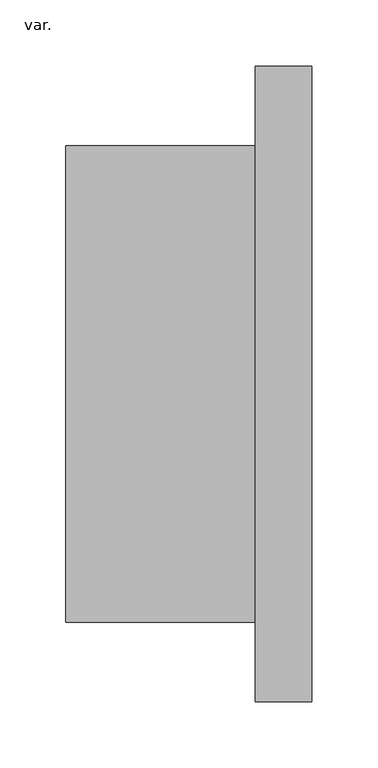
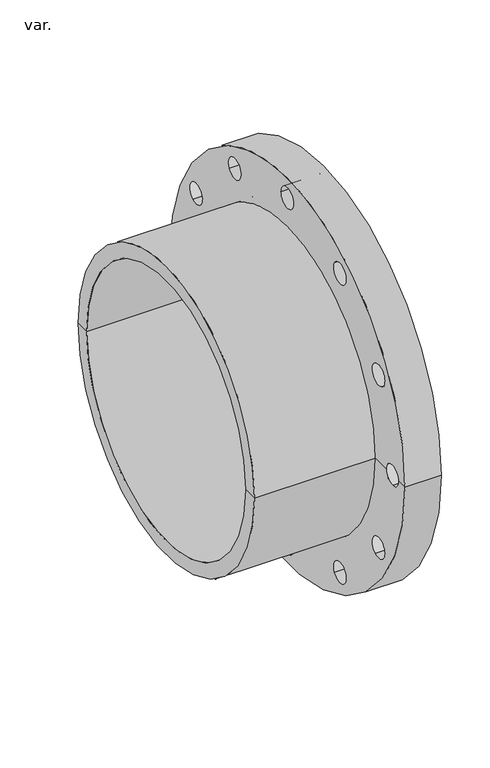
"""IFC4 building model written with IfcOpenShell, lengths in millimetres: pipe fitting geometry, PavcoWavin_UnionesDeTuberia_BIAX y Unión Platino_BridaAjustabledePVCSCH80 : var.."""

import ifcopenshell
import ifcopenshell.guid

model = None  # the IFC model being written
_history = None  # IfcOwnerHistory: only IFC2X3 demands one
_inside = {}  # id of a spatial element -> (the spatial element, [elements in it])
_under = {}  # id of a project, library or spatial element -> (it, [spatial elements below it])
_declared = {}  # id of a project -> (the project, [libraries it declares])
_typed = {}  # id of a type object -> (the type object, [elements of that type])
_made_of = {}  # id of a material, layer set ... -> (it, [elements and type objects made of it])


def new_model(schema):
    """Start an empty IFC model of exactly this schema.

    Asked for "IFC4X3", IfcOpenShell would pick the latest addendum, in which some entities
    have other attributes; the version numbers below select the first issue.
    IFC2X3 requires an IfcOwnerHistory on every rooted entity: one is made here for all.
    """
    global model, _history
    if schema == "IFC4X3":
        model = ifcopenshell.file(schema_version=(4, 3, 0, 0))
    else:
        model = ifcopenshell.file(schema=schema)
    _inside.clear()
    _under.clear()
    _declared.clear()
    _typed.clear()
    _made_of.clear()
    _history = None
    if model.schema == "IFC2X3":
        org = make("IfcOrganization", Name="unknown")
        user = make(
            "IfcPersonAndOrganization",
            ThePerson=make("IfcPerson", FamilyName="unknown"),
            TheOrganization=org,
        )
        app = make(
            "IfcApplication",
            ApplicationDeveloper=org,
            Version="unknown",
            ApplicationFullName="unknown",
            ApplicationIdentifier="unknown",
        )
        _history = make(
            "IfcOwnerHistory",
            OwningUser=user,
            OwningApplication=app,
            ChangeAction="ADDED",
            CreationDate=0,
        )
    return model


def make(cls, **values):
    """One entity of the class cls with the attributes given. An attribute that is None is left unset."""
    return model.create_entity(
        cls, **{name: value for name, value in values.items() if value is not None}
    )


def rooted(cls, **values):
    """An entity with a GlobalId (a new one), such as an element, a storey or a relation."""
    return make(cls, GlobalId=ifcopenshell.guid.new(), OwnerHistory=_history, **values)


def si_unit(unit_type, name, prefix=None):
    """IfcSIUnit, for example si_unit("LENGTHUNIT", "METRE", prefix="MILLI")."""
    return make("IfcSIUnit", UnitType=unit_type, Prefix=prefix, Name=name)


def assignment(units):
    """IfcUnitAssignment: the units of a project."""
    return None if units is None else make("IfcUnitAssignment", Units=units)


def point(xyz):
    """IfcCartesianPoint."""
    return None if xyz is None else make("IfcCartesianPoint", Coordinates=xyz)


def direction(xyz):
    """IfcDirection."""
    return None if xyz is None else make("IfcDirection", DirectionRatios=xyz)


def frame(location, z_axis=None, x_axis=None):
    """IfcAxis2Placement3D, a coordinate frame: its origin and axes. An axis left out is left unset."""
    return make(
        "IfcAxis2Placement3D",
        Location=point(location),
        Axis=direction(z_axis),
        RefDirection=direction(x_axis),
    )


def origin():
    """The frame at (0, 0, 0) with its axes left unset."""
    return frame((0.0, 0.0, 0.0))


def place(relative_to, where):
    """IfcLocalPlacement: puts the frame where relative to a parent placement (None: the world)."""
    return make(
        "IfcLocalPlacement", PlacementRelTo=relative_to, RelativePlacement=where
    )


def context(
    kind, dimensions, precision=None, world=None, true_north=None, identifier=None
):
    """IfcGeometricRepresentationContext, for example the 3D "Model" context."""
    return make(
        "IfcGeometricRepresentationContext",
        ContextIdentifier=identifier,
        ContextType=kind,
        CoordinateSpaceDimension=dimensions,
        Precision=precision,
        WorldCoordinateSystem=world,
        TrueNorth=true_north,
    )


def project(units=None, contexts=None):
    """IfcProject with its units and contexts."""
    return rooted(
        "IfcProject",
        Name="project",
        RepresentationContexts=contexts,
        UnitsInContext=assignment(units),
    )


def spatial(cls, under=None, at=None, **own):
    """A site, building, storey or space (cls), placed at a placement, below another one or the project."""
    s = rooted(cls, ObjectPlacement=at, **own)
    if under is not None:
        _under.setdefault(under.id(), (under, []))[1].append(s)
    return s


def polyline(points):
    """IfcPolyline through the points."""
    return make("IfcPolyline", Points=[point(p) for p in points])


def circle_curve(where, radius):
    """IfcCircle in the frame where."""
    return make("IfcCircle", Position=where, Radius=radius)


def shape(context_of_items, identifier, shape_type, items):
    """IfcShapeRepresentation: the items that make up one representation, for example the "Body"."""
    return make(
        "IfcShapeRepresentation",
        ContextOfItems=context_of_items,
        RepresentationIdentifier=identifier,
        RepresentationType=shape_type,
        Items=items,
    )


def source(mapping_origin, context_of_items, identifier, shape_type, items):
    """IfcRepresentationMap: a shape defined once, which mapped items show again and again."""
    return make(
        "IfcRepresentationMap",
        MappingOrigin=mapping_origin,
        MappedRepresentation=shape(context_of_items, identifier, shape_type, items),
    )


def transform(
    local_origin,
    x_axis=None,
    y_axis=None,
    z_axis=None,
    scale=None,
    scale2=None,
    scale3=None,
    uniform=True,
):
    """IfcCartesianTransformationOperator3D, or its non-uniform kind. x_axis, y_axis, z_axis: its Axis1, 2, 3."""
    if uniform:
        return make(
            "IfcCartesianTransformationOperator3D",
            Axis1=direction(x_axis),
            Axis2=direction(y_axis),
            LocalOrigin=point(local_origin),
            Scale=scale,
            Axis3=direction(z_axis),
        )
    return make(
        "IfcCartesianTransformationOperator3DnonUniform",
        Axis1=direction(x_axis),
        Axis2=direction(y_axis),
        LocalOrigin=point(local_origin),
        Scale=scale,
        Axis3=direction(z_axis),
        Scale2=scale2,
        Scale3=scale3,
    )


def mapped(mapping_source, mapping_target):
    """IfcMappedItem: shows the shape of a source again, moved by a transform."""
    return make(
        "IfcMappedItem", MappingSource=mapping_source, MappingTarget=mapping_target
    )


def made_of(thing, what):
    """Note that an element or type object is made of a material, layer set ...; save() writes the relation."""
    if what is not None:
        _made_of.setdefault(what.id(), (what, []))[1].append(thing)
    return thing


def element(
    cls,
    number,
    at=None,
    inside=None,
    cuts=None,
    type_object=None,
    material=None,
    context=None,
    identifier="Body",
    shape_type=None,
    held_by="IfcProductDefinitionShape",
    body=None,
    shapes=None,
    **own,
):
    """One element of the class cls, such as IfcWall. Its Tag is "e" and its number.

    at: its placement. inside: the storey or other place that contains it. cuts: it is an
    opening in that element (IfcRelVoidsElement). A single representation is given by context,
    identifier, shape_type and body (its items); several are given by shapes. held_by: the class
    of the entity that holds the representations. save() writes the other relations.
    """
    e = rooted(cls, Tag="e%d" % number, ObjectPlacement=at, **own)
    if body is not None:
        shapes = [shape(context, identifier, shape_type, body)]
    if shapes is not None:
        e.Representation = make(held_by, Representations=shapes)
    if inside is not None:
        _inside.setdefault(inside.id(), (inside, []))[1].append(e)
    if cuts is not None:
        rooted(
            "IfcRelVoidsElement", RelatingBuildingElement=cuts, RelatedOpeningElement=e
        )
    if type_object is not None:
        _typed.setdefault(type_object.id(), (type_object, []))[1].append(e)
    return made_of(e, material)


def aggregate(whole, parts):
    """IfcRelAggregates: a whole, such as a stair, and the parts it consists of."""
    return rooted("IfcRelAggregates", RelatingObject=whole, RelatedObjects=parts)


def save(model, path):
    """Write the relations noted so far, then the file.

    IfcRelAggregates (storeys below a building ...), IfcRelContainedInSpatialStructure (elements
    in a storey), IfcRelDefinesByType, IfcRelAssociatesMaterial and IfcRelDeclares: one each for
    every whole, place, type object, material and project.
    """
    for whole, parts in _under.values():
        aggregate(whole, parts)
    for where, things in _inside.values():
        rooted(
            "IfcRelContainedInSpatialStructure",
            RelatedElements=things,
            RelatingStructure=where,
        )
    for kind, things in _typed.values():
        rooted("IfcRelDefinesByType", RelatedObjects=things, RelatingType=kind)
    for what, things in _made_of.values():
        rooted("IfcRelAssociatesMaterial", RelatedObjects=things, RelatingMaterial=what)
    for by, libraries in _declared.values():
        rooted("IfcRelDeclares", RelatingContext=by, RelatedDefinitions=libraries)
    model.write(path)


def plane_surface(at):
    """IfcPlane: the flat surface through the origin of the frame at, square to its z axis."""
    return make("IfcPlane", Position=at)


def cylinder_surface(at, radius):
    """IfcCylindricalSurface: all points at the distance radius from the z axis of the frame at."""
    return make("IfcCylindricalSurface", Position=at, Radius=radius)


def revolved_surface(curve, axis_point, axis_direction):
    """IfcSurfaceOfRevolution: the curve turned about the line through axis_point along axis_direction."""
    return make(
        "IfcSurfaceOfRevolution",
        SweptCurve=make("IfcArbitraryOpenProfileDef", ProfileType="CURVE", Curve=curve),
        AxisPosition=make("IfcAxis1Placement", Location=point(axis_point), Axis=direction(axis_direction)),
    )


def advanced_brep(points, edges, surfaces, faces):
    """IfcAdvancedBrep: a solid bounded by faces that lie on surfaces and meet in shared edges.

    An edge is (start, end): straight between two places in points (the first is 0);
    or (start, end, curve); or (start, end, curve, False) where it runs against its curve.
    A face is (place in surfaces, loops), or (place, loops, False) where it looks against
    its surface's normal. A loop lists edges by number (the first is 1), with a minus sign
    where the edge is run from its end to its start. The first loop is the outer one.
    """
    corners = [point(p) for p in points]
    vertices = [make("IfcVertexPoint", VertexGeometry=c) for c in corners]
    made = []
    for start, end, *more in edges:
        made.append(
            make(
                "IfcEdgeCurve",
                EdgeStart=vertices[start],
                EdgeEnd=vertices[end],
                EdgeGeometry=more[0] if more else make("IfcPolyline", Points=[corners[start], corners[end]]),
                SameSense=more[1] if len(more) > 1 else True,
            )
        )
    hull = []
    for where, loops, *sense in faces:
        bounds = []
        for j, loop in enumerate(loops):
            ring = [make("IfcOrientedEdge", EdgeElement=made[abs(k) - 1], Orientation=k > 0) for k in loop]
            bounds.append(
                make(
                    "IfcFaceOuterBound" if j == 0 else "IfcFaceBound",
                    Bound=make("IfcEdgeLoop", EdgeList=ring),
                    Orientation=True,
                )
            )
        hull.append(make("IfcAdvancedFace", Bounds=bounds, FaceSurface=surfaces[where], SameSense=sense[0] if sense else True))
    return make("IfcAdvancedBrep", Outer=make("IfcClosedShell", CfsFaces=hull))


def var_bb98a727(model_context):
    return source(origin(), model_context, "Body", "AdvancedBrep", [
        advanced_brep(
        [(-21.5, -241.0, 0.0), (-21.5, 241.0, 0.0), (21.5, 241.0, 0.0), (21.5, -241.0, 0.0), (-21.5, -228.6, 0.0), (-21.5, -215.9, -12.7), (-21.5, -203.2, 0.0), (-21.5, -180.5, 0.0), (-21.5, 180.5, 0.0), (-21.5, 203.2, 0.0), (-21.5, 215.9, -12.7), (-21.5, 228.6, 0.0), (-21.5, 193.3248847, -96.9514774), (-21.5, 180.6248847, -118.9485226), (-21.5, 118.9485226, -180.6248847), (-21.5, 96.9514774, -193.3248847), (-21.5, 12.7, -215.9), (-21.5, -12.7, -215.9), (-21.5, -96.9514774, -193.3248847), (-21.5, -118.9485226, -180.6248847), (-21.5, -180.6248847, -118.9485226), (-21.5, -193.3248847, -96.9514774), (-21.5, 215.9, 12.7), (-21.5, -215.9, 12.7), (-21.5, 180.6248847, 118.9485226), (-21.5, 193.3248847, 96.9514774), (-21.5, -12.7, 215.9), (-21.5, 12.7, 215.9), (-21.5, -118.9485226, 180.6248847), (-21.5, -96.9514774, 193.3248847), (-21.5, 96.9514774, 193.3248847), (-21.5, 118.9485226, 180.6248847), (-21.5, -193.3248847, 96.9514774), (-21.5, -180.6248847, 118.9485226), (-3.5, -180.5, 0.0), (-3.5, 180.5, 0.0), (-3.5, -192.5, 0.0), (-3.5, 192.5, 0.0), (21.5, -192.5, 0.0), (21.5, 192.5, 0.0), (21.5, 228.6, 0.0), (21.5, 215.9, -12.7), (21.5, 203.2, 0.0), (21.5, -203.2, 0.0), (21.5, -215.9, -12.7), (21.5, -228.6, 0.0), (21.5, 180.6248847, -118.9485226), (21.5, 193.3248847, -96.9514774), (21.5, 96.9514774, -193.3248847), (21.5, 118.9485226, -180.6248847), (21.5, -12.7, -215.9), (21.5, 12.7, -215.9), (21.5, -118.9485226, -180.6248847), (21.5, -96.9514774, -193.3248847), (21.5, -193.3248847, -96.9514774), (21.5, -180.6248847, -118.9485226), (21.5, -215.9, 12.7), (21.5, 215.9, 12.7), (21.5, 193.3248847, 96.9514774), (21.5, 180.6248847, 118.9485226), (21.5, 12.7, 215.9), (21.5, -12.7, 215.9), (21.5, -96.9514774, 193.3248847), (21.5, -118.9485226, 180.6248847), (21.5, 118.9485226, 180.6248847), (21.5, 96.9514774, 193.3248847), (21.5, -180.6248847, 118.9485226), (21.5, -193.3248847, 96.9514774)],
        [
            (0, 1, circle_curve(frame((-21.5, 0.0, 0.0), z_axis=(1.0, 0.0, 0.0), x_axis=(0.0, 1.0, 0.0)), 241.0)),
            (1, 2),
            (2, 3, circle_curve(frame((21.5, 0.0, 0.0), z_axis=(-1.0, 0.0, 0.0), x_axis=(0.0, 1.0, 0.0)), 241.0)),
            (3, 0),
            (1, 0, circle_curve(frame((-21.5, 0.0, 0.0), z_axis=(1.0, 0.0, 0.0), x_axis=(0.0, 1.0, 0.0)), 241.0)),
            (3, 2, circle_curve(frame((21.5, 0.0, 0.0), z_axis=(-1.0, 0.0, 0.0), x_axis=(0.0, 1.0, 0.0)), 241.0)),
            (0, 4),
            (4, 5, circle_curve(frame((-21.5, -215.9, 0.0), z_axis=(1.0, 0.0, 0.0), x_axis=(0.0, 0.0, 1.0)), 12.7)),
            (5, 6, circle_curve(frame((-21.5, -215.9, 0.0), z_axis=(1.0, 0.0, 0.0), x_axis=(0.0, 0.0, 1.0)), 12.7)),
            (6, 7),
            (7, 8, circle_curve(frame((-21.5, 0.0, 0.0), z_axis=(1.0, 0.0, 0.0), x_axis=(0.0, 1.0, 0.0)), 180.5)),
            (8, 9),
            (9, 10, circle_curve(frame((-21.5, 215.9, 0.0), z_axis=(1.0, 0.0, 0.0), x_axis=(0.0, 0.0, -1.0)), 12.7)),
            (10, 11, circle_curve(frame((-21.5, 215.9, 0.0), z_axis=(1.0, 0.0, 0.0), x_axis=(0.0, 0.0, -1.0)), 12.7)),
            (11, 1),
            (12, 13, circle_curve(frame((-21.5, 186.9748847, -107.95), z_axis=(1.0, 0.0, 0.0), x_axis=(0.0, -0.5000000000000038, -0.8660254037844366)), 12.7)),
            (13, 12, circle_curve(frame((-21.5, 186.9748847, -107.95), z_axis=(1.0, 0.0, 0.0), x_axis=(0.0, -0.5000000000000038, -0.8660254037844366)), 12.7)),
            (14, 15, circle_curve(frame((-21.5, 107.95, -186.9748847), z_axis=(1.0, 0.0, 0.0), x_axis=(0.0, -0.8660254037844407, -0.4999999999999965)), 12.7)),
            (15, 14, circle_curve(frame((-21.5, 107.95, -186.9748847), z_axis=(1.0, 0.0, 0.0), x_axis=(0.0, -0.8660254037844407, -0.4999999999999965)), 12.7)),
            (16, 17, circle_curve(frame((-21.5, 0.0, -215.9), z_axis=(1.0, 0.0, 0.0), x_axis=(0.0, -1.0, 0.0)), 12.7)),
            (17, 16, circle_curve(frame((-21.5, 0.0, -215.9), z_axis=(1.0, 0.0, 0.0), x_axis=(0.0, -1.0, 0.0)), 12.7)),
            (18, 19, circle_curve(frame((-21.5, -107.95, -186.9748847), z_axis=(1.0, 0.0, 0.0), x_axis=(0.0, -0.8660254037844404, 0.49999999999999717)), 12.7)),
            (19, 18, circle_curve(frame((-21.5, -107.95, -186.9748847), z_axis=(1.0, 0.0, 0.0), x_axis=(0.0, -0.8660254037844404, 0.49999999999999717)), 12.7)),
            (20, 21, circle_curve(frame((-21.5, -186.9748847, -107.95), z_axis=(1.0, 0.0, 0.0), x_axis=(0.0, -0.5000000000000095, 0.8660254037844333)), 12.7)),
            (21, 20, circle_curve(frame((-21.5, -186.9748847, -107.95), z_axis=(1.0, 0.0, 0.0), x_axis=(0.0, -0.5000000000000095, 0.8660254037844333)), 12.7)),
            (11, 22, circle_curve(frame((-21.5, 215.9, 0.0), z_axis=(1.0, 0.0, 0.0), x_axis=(0.0, 0.0, -1.0)), 12.7)),
            (22, 9, circle_curve(frame((-21.5, 215.9, 0.0), z_axis=(1.0, 0.0, 0.0), x_axis=(0.0, 0.0, -1.0)), 12.7)),
            (8, 7, circle_curve(frame((-21.5, 0.0, 0.0), z_axis=(1.0, 0.0, 0.0), x_axis=(0.0, 1.0, 0.0)), 180.5)),
            (6, 23, circle_curve(frame((-21.5, -215.9, 0.0), z_axis=(1.0, 0.0, 0.0), x_axis=(0.0, 0.0, 1.0)), 12.7)),
            (23, 4, circle_curve(frame((-21.5, -215.9, 0.0), z_axis=(1.0, 0.0, 0.0), x_axis=(0.0, 0.0, 1.0)), 12.7)),
            (24, 25, circle_curve(frame((-21.5, 186.9748847, 107.95), z_axis=(1.0, 0.0, 0.0), x_axis=(0.0, 0.5000000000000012, -0.866025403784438)), 12.7)),
            (25, 24, circle_curve(frame((-21.5, 186.9748847, 107.95), z_axis=(1.0, 0.0, 0.0), x_axis=(0.0, 0.5000000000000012, -0.866025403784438)), 12.7)),
            (26, 27, circle_curve(frame((-21.5, 0.0, 215.9), z_axis=(1.0, 0.0, 0.0), x_axis=(0.0, 1.0, 0.0)), 12.7)),
            (27, 26, circle_curve(frame((-21.5, 0.0, 215.9), z_axis=(1.0, 0.0, 0.0), x_axis=(0.0, 1.0, 0.0)), 12.7)),
            (28, 29, circle_curve(frame((-21.5, -107.95, 186.9748847), z_axis=(1.0, 0.0, 0.0), x_axis=(0.0, 0.8660254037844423, 0.4999999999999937)), 12.7)),
            (29, 28, circle_curve(frame((-21.5, -107.95, 186.9748847), z_axis=(1.0, 0.0, 0.0), x_axis=(0.0, 0.8660254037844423, 0.4999999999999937)), 12.7)),
            (30, 31, circle_curve(frame((-21.5, 107.95, 186.9748847), z_axis=(1.0, 0.0, 0.0), x_axis=(0.0, 0.866025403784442, -0.49999999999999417)), 12.7)),
            (31, 30, circle_curve(frame((-21.5, 107.95, 186.9748847), z_axis=(1.0, 0.0, 0.0), x_axis=(0.0, 0.866025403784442, -0.49999999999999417)), 12.7)),
            (32, 33, circle_curve(frame((-21.5, -186.9748847, 107.95), z_axis=(1.0, 0.0, 0.0), x_axis=(0.0, 0.4999999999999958, 0.8660254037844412)), 12.7)),
            (33, 32, circle_curve(frame((-21.5, -186.9748847, 107.95), z_axis=(1.0, 0.0, 0.0), x_axis=(0.0, 0.4999999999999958, 0.8660254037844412)), 12.7)),
            (7, 34),
            (34, 35, circle_curve(frame((-3.5, 0.0, 0.0), z_axis=(1.0, 0.0, 0.0), x_axis=(0.0, 1.0, 0.0)), 180.5)),
            (35, 8),
            (35, 34, circle_curve(frame((-3.5, 0.0, 0.0), z_axis=(1.0, 0.0, 0.0), x_axis=(0.0, 1.0, 0.0)), 180.5)),
            (34, 36),
            (36, 37, circle_curve(frame((-3.5, 0.0, 0.0), z_axis=(1.0, 0.0, 0.0), x_axis=(0.0, 1.0, 0.0)), 192.5)),
            (37, 35),
            (37, 36, circle_curve(frame((-3.5, 0.0, 0.0), z_axis=(1.0, 0.0, 0.0), x_axis=(0.0, 1.0, 0.0)), 192.5)),
            (36, 38),
            (38, 39, circle_curve(frame((21.5, 0.0, 0.0), z_axis=(1.0, 0.0, 0.0), x_axis=(0.0, 1.0, 0.0)), 192.5)),
            (39, 37),
            (39, 38, circle_curve(frame((21.5, 0.0, 0.0), z_axis=(1.0, 0.0, 0.0), x_axis=(0.0, 1.0, 0.0)), 192.5)),
            (2, 40),
            (40, 41, circle_curve(frame((21.5, 215.9, 0.0), z_axis=(-1.0, 0.0, 0.0), x_axis=(0.0, 0.0, -1.0)), 12.7)),
            (41, 42, circle_curve(frame((21.5, 215.9, 0.0), z_axis=(-1.0, 0.0, 0.0), x_axis=(0.0, 0.0, -1.0)), 12.7)),
            (42, 39),
            (38, 43),
            (43, 44, circle_curve(frame((21.5, -215.9, 0.0), z_axis=(-1.0, 0.0, 0.0), x_axis=(0.0, 0.0, 1.0)), 12.7)),
            (44, 45, circle_curve(frame((21.5, -215.9, 0.0), z_axis=(-1.0, 0.0, 0.0), x_axis=(0.0, 0.0, 1.0)), 12.7)),
            (45, 3),
            (46, 47, circle_curve(frame((21.5, 186.9748847, -107.95), z_axis=(-1.0, 0.0, 0.0), x_axis=(0.0, -0.5000000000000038, -0.8660254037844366)), 12.7)),
            (47, 46, circle_curve(frame((21.5, 186.9748847, -107.95), z_axis=(-1.0, 0.0, 0.0), x_axis=(0.0, -0.5000000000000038, -0.8660254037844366)), 12.7)),
            (48, 49, circle_curve(frame((21.5, 107.95, -186.9748847), z_axis=(-1.0, 0.0, 0.0), x_axis=(0.0, -0.8660254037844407, -0.4999999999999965)), 12.7)),
            (49, 48, circle_curve(frame((21.5, 107.95, -186.9748847), z_axis=(-1.0, 0.0, 0.0), x_axis=(0.0, -0.8660254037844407, -0.4999999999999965)), 12.7)),
            (50, 51, circle_curve(frame((21.5, 0.0, -215.9), z_axis=(-1.0, 0.0, 0.0), x_axis=(0.0, -1.0, 0.0)), 12.7)),
            (51, 50, circle_curve(frame((21.5, 0.0, -215.9), z_axis=(-1.0, 0.0, 0.0), x_axis=(0.0, -1.0, 0.0)), 12.7)),
            (52, 53, circle_curve(frame((21.5, -107.95, -186.9748847), z_axis=(-1.0, 0.0, 0.0), x_axis=(0.0, -0.8660254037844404, 0.49999999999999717)), 12.7)),
            (53, 52, circle_curve(frame((21.5, -107.95, -186.9748847), z_axis=(-1.0, 0.0, 0.0), x_axis=(0.0, -0.8660254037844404, 0.49999999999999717)), 12.7)),
            (54, 55, circle_curve(frame((21.5, -186.9748847, -107.95), z_axis=(-1.0, 0.0, 0.0), x_axis=(0.0, -0.5000000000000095, 0.8660254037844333)), 12.7)),
            (55, 54, circle_curve(frame((21.5, -186.9748847, -107.95), z_axis=(-1.0, 0.0, 0.0), x_axis=(0.0, -0.5000000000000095, 0.8660254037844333)), 12.7)),
            (45, 56, circle_curve(frame((21.5, -215.9, 0.0), z_axis=(-1.0, 0.0, 0.0), x_axis=(0.0, 0.0, 1.0)), 12.7)),
            (56, 43, circle_curve(frame((21.5, -215.9, 0.0), z_axis=(-1.0, 0.0, 0.0), x_axis=(0.0, 0.0, 1.0)), 12.7)),
            (42, 57, circle_curve(frame((21.5, 215.9, 0.0), z_axis=(-1.0, 0.0, 0.0), x_axis=(0.0, 0.0, -1.0)), 12.7)),
            (57, 40, circle_curve(frame((21.5, 215.9, 0.0), z_axis=(-1.0, 0.0, 0.0), x_axis=(0.0, 0.0, -1.0)), 12.7)),
            (58, 59, circle_curve(frame((21.5, 186.9748847, 107.95), z_axis=(-1.0, 0.0, 0.0), x_axis=(0.0, 0.5000000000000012, -0.866025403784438)), 12.7)),
            (59, 58, circle_curve(frame((21.5, 186.9748847, 107.95), z_axis=(-1.0, 0.0, 0.0), x_axis=(0.0, 0.5000000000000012, -0.866025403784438)), 12.7)),
            (60, 61, circle_curve(frame((21.5, 0.0, 215.9), z_axis=(-1.0, 0.0, 0.0), x_axis=(0.0, 1.0, 0.0)), 12.7)),
            (61, 60, circle_curve(frame((21.5, 0.0, 215.9), z_axis=(-1.0, 0.0, 0.0), x_axis=(0.0, 1.0, 0.0)), 12.7)),
            (62, 63, circle_curve(frame((21.5, -107.95, 186.9748847), z_axis=(-1.0, 0.0, 0.0), x_axis=(0.0, 0.8660254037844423, 0.4999999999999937)), 12.7)),
            (63, 62, circle_curve(frame((21.5, -107.95, 186.9748847), z_axis=(-1.0, 0.0, 0.0), x_axis=(0.0, 0.8660254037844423, 0.4999999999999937)), 12.7)),
            (64, 65, circle_curve(frame((21.5, 107.95, 186.9748847), z_axis=(-1.0, 0.0, 0.0), x_axis=(0.0, 0.866025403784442, -0.49999999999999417)), 12.7)),
            (65, 64, circle_curve(frame((21.5, 107.95, 186.9748847), z_axis=(-1.0, 0.0, 0.0), x_axis=(0.0, 0.866025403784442, -0.49999999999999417)), 12.7)),
            (66, 67, circle_curve(frame((21.5, -186.9748847, 107.95), z_axis=(-1.0, 0.0, 0.0), x_axis=(0.0, 0.4999999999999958, 0.8660254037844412)), 12.7)),
            (67, 66, circle_curve(frame((21.5, -186.9748847, 107.95), z_axis=(-1.0, 0.0, 0.0), x_axis=(0.0, 0.4999999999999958, 0.8660254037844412)), 12.7)),
            (26, 61),
            (60, 27),
            (28, 63),
            (62, 29),
            (30, 65),
            (64, 31),
            (24, 59),
            (58, 25),
            (22, 57),
            (41, 10),
            (12, 47),
            (46, 13),
            (14, 49),
            (48, 15),
            (16, 51),
            (50, 17),
            (18, 53),
            (52, 19),
            (20, 55),
            (54, 21),
            (5, 44),
            (56, 23),
            (32, 67),
            (66, 33),
        ],
        [
            cylinder_surface(frame((2263.5, 0.0, 0.0), z_axis=(-1.0, 0.0, 0.0), x_axis=(0.0, 1.0, 0.0)), 241.0),
            plane_surface(frame((-21.5, 0.0, 0.0), z_axis=(-1.0, 0.0, 0.0), x_axis=(0.0, 1.0, 0.0))),
            revolved_surface(polyline([(-21.5, 180.5, 0.0), (-3.5, 180.5, 0.0)]), (2263.5, 0.0, 0.0), (-1.0, 0.0, 0.0)),
            plane_surface(frame((-3.5, 0.0, 0.0), z_axis=(1.0, 0.0, 0.0), x_axis=(0.0, 1.0, 0.0))),
            revolved_surface(polyline([(-3.5, 192.5, 0.0), (21.5, 192.5, 0.0)]), (2263.5, 0.0, 0.0), (-1.0, 0.0, 0.0)),
            plane_surface(frame((21.5, 0.0, 0.0), z_axis=(1.0, 0.0, 0.0), x_axis=(0.0, 1.0, 0.0))),
            revolved_surface(polyline([(21.5, 12.7, 215.9), (-21.5, 12.7, 215.9)]), (-50.0, 0.0, 215.9), (1.0, 0.0, 0.0)),
            revolved_surface(polyline([(21.5, -96.95147737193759, 193.3248846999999), (-21.5, -96.95147737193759, 193.3248846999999)]), (-50.0, -107.95, 186.9748847), (1.0, 0.0, 0.0)),
            revolved_surface(polyline([(21.5, 118.94852262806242, 180.62488470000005), (-21.5, 118.94852262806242, 180.62488470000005)]), (-50.0, 107.95, 186.9748847), (1.0, 0.0, 0.0)),
            revolved_surface(polyline([(21.50000000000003, 193.3248847, 96.95147737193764), (-21.499999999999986, 193.3248847, 96.95147737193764)]), (-50.0, 186.9748847, 107.95), (1.0000000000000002, 0.0, 0.0)),
            revolved_surface(polyline([(21.5, 215.9, -12.7), (-21.5, 215.9, -12.7)]), (-50.0, 215.9, 0.0), (1.0, 0.0, 0.0)),
            revolved_surface(polyline([(21.50000000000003, 180.62488469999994, -118.94852262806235), (-21.499999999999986, 180.62488469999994, -118.94852262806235)]), (-50.0, 186.9748847, -107.95), (1.0000000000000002, 0.0, 0.0)),
            revolved_surface(polyline([(21.5, 96.95147737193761, -193.32488469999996), (-21.5, 96.95147737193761, -193.32488469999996)]), (-50.0, 107.95, -186.9748847), (1.0, 0.0, 0.0)),
            revolved_surface(polyline([(21.5, -12.7, -215.9), (-21.5, -12.7, -215.9)]), (-50.0, 0.0, -215.9), (1.0, 0.0, 0.0)),
            revolved_surface(polyline([(21.50000000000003, -118.94852262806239, -180.62488470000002), (-21.499999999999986, -118.94852262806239, -180.62488470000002)]), (-50.0, -107.95, -186.9748847), (1.0000000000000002, 0.0, 0.0)),
            revolved_surface(polyline([(21.50000000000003, -193.3248847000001, -96.9514773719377), (-21.499999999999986, -193.3248847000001, -96.9514773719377)]), (-50.0, -186.9748847, -107.95), (1.0000000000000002, 0.0, 0.0)),
            revolved_surface(polyline([(21.5, -215.9, 12.7), (-21.5, -215.9, 12.7)]), (-50.0, -215.9, 0.0), (1.0, 0.0, 0.0)),
            revolved_surface(polyline([(21.5, -180.62488470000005, 118.9485226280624), (-21.5, -180.62488470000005, 118.9485226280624)]), (-50.0, -186.9748847, 107.95), (1.0, 0.0, 0.0)),
        ],
        [
            (0, [[1, 2, 3, 4]]),
            (0, [[-2, 5, -4, 6]]),
            (1, [[-1, 7, 8, 9, 10, 11, 12, 13, 14, 15], [16, 17], [18, 19], [20, 21], [22, 23], [24, 25]]),
            (1, [[-5, -15, 26, 27, -12, 28, -10, 29, 30, -7], [31, 32], [33, 34], [35, 36], [37, 38], [39, 40]]),
            (2, [[-11, 41, 42, 43]]),
            (2, [[-28, -43, 44, -41]]),
            (3, [[-42, 45, 46, 47]]),
            (3, [[-44, -47, 48, -45]]),
            (4, [[-46, 49, 50, 51]]),
            (4, [[-48, -51, 52, -49]]),
            (5, [[-3, 53, 54, 55, 56, -50, 57, 58, 59, 60], [61, 62], [63, 64], [65, 66], [67, 68], [69, 70]]),
            (5, [[-6, -60, 71, 72, -57, -52, -56, 73, 74, -53], [75, 76], [77, 78], [79, 80], [81, 82], [83, 84]]),
            (6, [[85, -77, 86, -33]]),
            (6, [[-85, -34, -86, -78]]),
            (7, [[87, -79, 88, -35]]),
            (7, [[-87, -36, -88, -80]]),
            (8, [[89, -81, 90, -37]]),
            (8, [[-89, -38, -90, -82]]),
            (9, [[91, -75, 92, -31]]),
            (9, [[-91, -32, -92, -76]]),
            (10, [[93, -73, -55, 94, -13, -27]]),
            (10, [[-93, -26, -14, -94, -54, -74]]),
            (11, [[95, -61, 96, -16]]),
            (11, [[-95, -17, -96, -62]]),
            (12, [[97, -63, 98, -18]]),
            (12, [[-97, -19, -98, -64]]),
            (13, [[99, -65, 100, -20]]),
            (13, [[-99, -21, -100, -66]]),
            (14, [[101, -67, 102, -22]]),
            (14, [[-101, -23, -102, -68]]),
            (15, [[103, -69, 104, -24]]),
            (15, [[-103, -25, -104, -70]]),
            (16, [[105, -58, -72, 106, -29, -9]]),
            (16, [[-105, -8, -30, -106, -71, -59]]),
            (17, [[107, -83, 108, -39]]),
            (17, [[-107, -40, -108, -84]]),
        ],
    ),
        advanced_brep(
        [(-2.0, -180.5, 0.0), (-2.0, 180.5, 0.0), (-2.0, 192.5, 0.0), (-2.0, -192.5, 0.0), (-164.79, -180.5, 0.0), (-164.79, 180.5, 0.0), (-164.79, -163.0, 0.0), (-164.79, 163.0, 0.0), (7.21, -163.0, 0.0), (7.21, 163.0, 0.0), (7.21, -154.0, 0.0), (7.21, 154.0, 0.0), (21.5, -154.0, 0.0), (21.5, 154.0, 0.0), (21.5, -192.5, 0.0), (21.5, 192.5, 0.0)],
        [
            (0, 1, circle_curve(frame((-2.0, 0.0, 0.0), z_axis=(1.0, 0.0, 0.0), x_axis=(0.0, 1.0, 0.0)), 180.5)),
            (1, 2),
            (2, 3, circle_curve(frame((-2.0, 0.0, 0.0), z_axis=(-1.0, 0.0, 0.0), x_axis=(0.0, 1.0, 0.0)), 192.5)),
            (3, 0),
            (1, 0, circle_curve(frame((-2.0, 0.0, 0.0), z_axis=(1.0, 0.0, 0.0), x_axis=(0.0, 1.0, 0.0)), 180.5)),
            (3, 2, circle_curve(frame((-2.0, 0.0, 0.0), z_axis=(-1.0, 0.0, 0.0), x_axis=(0.0, 1.0, 0.0)), 192.5)),
            (4, 5, circle_curve(frame((-164.79, 0.0, 0.0), z_axis=(1.0, 0.0, 0.0), x_axis=(0.0, 1.0, 0.0)), 180.5)),
            (5, 1),
            (0, 4),
            (5, 4, circle_curve(frame((-164.79, 0.0, 0.0), z_axis=(1.0, 0.0, 0.0), x_axis=(0.0, 1.0, 0.0)), 180.5)),
            (6, 7, circle_curve(frame((-164.79, 0.0, 0.0), z_axis=(1.0, 0.0, 0.0), x_axis=(0.0, 1.0, 0.0)), 163.0)),
            (7, 5),
            (4, 6),
            (7, 6, circle_curve(frame((-164.79, 0.0, 0.0), z_axis=(1.0, 0.0, 0.0), x_axis=(0.0, 1.0, 0.0)), 163.0)),
            (8, 9, circle_curve(frame((7.21, 0.0, 0.0), z_axis=(1.0, 0.0, 0.0), x_axis=(0.0, 1.0, 0.0)), 163.0)),
            (9, 7),
            (6, 8),
            (9, 8, circle_curve(frame((7.21, 0.0, 0.0), z_axis=(1.0, 0.0, 0.0), x_axis=(0.0, 1.0, 0.0)), 163.0)),
            (10, 11, circle_curve(frame((7.21, 0.0, 0.0), z_axis=(1.0, 0.0, 0.0), x_axis=(0.0, 1.0, 0.0)), 154.0)),
            (11, 9),
            (8, 10),
            (11, 10, circle_curve(frame((7.21, 0.0, 0.0), z_axis=(1.0, 0.0, 0.0), x_axis=(0.0, 1.0, 0.0)), 154.0)),
            (12, 13, circle_curve(frame((21.5, 0.0, 0.0), z_axis=(1.0, 0.0, 0.0), x_axis=(0.0, 1.0, 0.0)), 154.0)),
            (13, 11),
            (10, 12),
            (13, 12, circle_curve(frame((21.5, 0.0, 0.0), z_axis=(1.0, 0.0, 0.0), x_axis=(0.0, 1.0, 0.0)), 154.0)),
            (14, 15, circle_curve(frame((21.5, 0.0, 0.0), z_axis=(1.0, 0.0, 0.0), x_axis=(0.0, 1.0, 0.0)), 192.5)),
            (15, 13),
            (12, 14),
            (15, 14, circle_curve(frame((21.5, 0.0, 0.0), z_axis=(1.0, 0.0, 0.0), x_axis=(0.0, 1.0, 0.0)), 192.5)),
            (2, 15),
            (14, 3),
        ],
        [
            plane_surface(frame((-2.0, 0.0, 0.0), z_axis=(-1.0, 0.0, 0.0), x_axis=(0.0, 1.0, 0.0))),
            cylinder_surface(frame((2021.5, 0.0, 0.0), z_axis=(-1.0, 0.0, 0.0), x_axis=(0.0, 1.0, 0.0)), 180.5),
            plane_surface(frame((-164.79, 0.0, 0.0), z_axis=(-1.0, 0.0, 0.0), x_axis=(0.0, 1.0, 0.0))),
            revolved_surface(polyline([(-164.78999999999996, 163.0, 0.0), (7.210000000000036, 163.0, 0.0)]), (2021.5, 0.0, 0.0), (-1.0, 0.0, 0.0)),
            plane_surface(frame((7.21, 0.0, 0.0), z_axis=(-1.0, 0.0, 0.0), x_axis=(0.0, 1.0, 0.0))),
            revolved_surface(polyline([(7.210000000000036, 154.0, 0.0), (21.5, 154.0, 0.0)]), (2021.5, 0.0, 0.0), (-1.0, 0.0, 0.0)),
            plane_surface(frame((21.5, 0.0, 0.0), z_axis=(1.0, 0.0, 0.0), x_axis=(0.0, 1.0, 0.0))),
            cylinder_surface(frame((2021.5, 0.0, 0.0), z_axis=(-1.0, 0.0, 0.0), x_axis=(0.0, 1.0, 0.0)), 192.5),
        ],
        [
            (0, [[1, 2, 3, 4]]),
            (0, [[5, -4, 6, -2]]),
            (1, [[7, 8, -1, 9]]),
            (1, [[10, -9, -5, -8]]),
            (2, [[11, 12, -7, 13]]),
            (2, [[14, -13, -10, -12]]),
            (3, [[15, 16, -11, 17]]),
            (3, [[18, -17, -14, -16]]),
            (4, [[19, 20, -15, 21]]),
            (4, [[22, -21, -18, -20]]),
            (5, [[23, 24, -19, 25]]),
            (5, [[26, -25, -22, -24]]),
            (6, [[27, 28, -23, 29]]),
            (6, [[30, -29, -26, -28]]),
            (7, [[-3, 31, -27, 32]]),
            (7, [[-6, -32, -30, -31]]),
        ],
    ),
    ])


if __name__ == "__main__":
    model = new_model("IFC4")
    model_context = context("Model", 3, world=origin())
    ifc_project = project(units=[si_unit("LENGTHUNIT", "METRE", prefix="MILLI")], contexts=[model_context])
    site = spatial("IfcSite", under=ifc_project)
    building = spatial("IfcBuilding", under=site)
    placement = place(None, origin())
    var_shape = var_bb98a727(model_context)
    element("IfcPipeFitting", 1, ObjectType="PavcoWavin_UnionesDeTuberia_BIAX y Unión Platino_BridaAjustabledePVCSCH80 : var.", at=placement, inside=building, context=model_context, shape_type="MappedRepresentation", body=[
        mapped(var_shape, transform((0.0, 0.0, 0.0), x_axis=(1.0, 0.0, 0.0), y_axis=(0.0, 1.0, 0.0), z_axis=(0.0, 0.0, 1.0))),
    ])
    save(model, "model.ifc")
